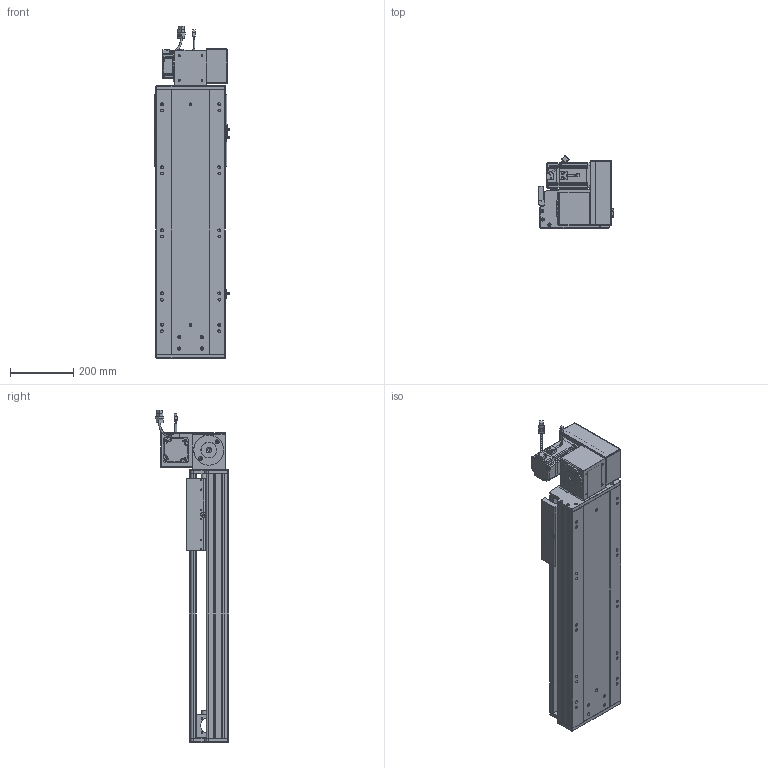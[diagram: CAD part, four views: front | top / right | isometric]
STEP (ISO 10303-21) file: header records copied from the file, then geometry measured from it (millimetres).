
FILE_DESCRIPTION (( 'STEP AP203' ), '1' );
FILE_NAME ('RY220-T-300-UR.SLDASM_500.step', '2022-07-25T08:42:41', ( '' ), ( '' ), 'SwSTEP 2.0', 'SolidWorks 2016', '' );
FILE_SCHEMA (( 'CONFIG_CONTROL_DESIGN' ));
Length unit declared in the file: millimetre
Products named in the file (14): RY220-T-蛌殏萇儂假蚾啣(750W); RY220-T-湍謫欶(鍼踢); 110A-T-肮祭謫釱傷裔; RY220翋肮祭謫裔啣; 覜茼ん672; RY220翋肮祭謫釱; RY220-俋离672覜茼んえ; RY220-T-300-奻裔啣_500; RY220-同步轮副支撑座6304×2; RY220-T菁釱-300_500; RY220圉猾敕々湍臏賑輸; RY220-T-300-UR.SLDASM_500; 滅袉蝶18-15; 怢湛750W_ECMA-CX0807ES
Assembly tree (18 placements, depth 2):
  RY220-T-300-UR.SLDASM_500
    RY220-T菁釱-300_500
    RY220翋肮祭謫釱
    覜茼ん672  x3
    RY220圉猾敕々湍臏賑輸
    RY220-T-300-奻裔啣_500
    RY220-俋离672覜茼んえ
    滅袉蝶18-15  x3
    RY220翋肮祭謫裔啣  x2
    110A-T-肮祭謫釱傷裔
    怢湛750W_ECMA-CX0807ES
    RY220-T-湍謫欶(鍼踢)
    RY220-T-蛌殏萇儂假蚾啣(750W)
    RY220-同步轮副支撑座6304×2
Bounding box: 238.7 x 231.74 x 1053.27 mm (x, y, z)
Volume: 9023212.8 mm3; surface area: 2525711.8 mm2
Topology: 19 solids, 19 shells, 2524 faces, 6959 edges, 4436 vertices
Faces by surface type: cylinder 1160, plane 1069, cone 213, bspline 56, sphere 16, torus 10
Entity records: 83939 total; most frequent: CARTESIAN_POINT 24055, ORIENTED_EDGE 12474, DIRECTION 11692, EDGE_CURVE 6237, AXIS2_PLACEMENT_3D 4102, VERTEX_POINT 4060, LINE 3488, VECTOR 3488
